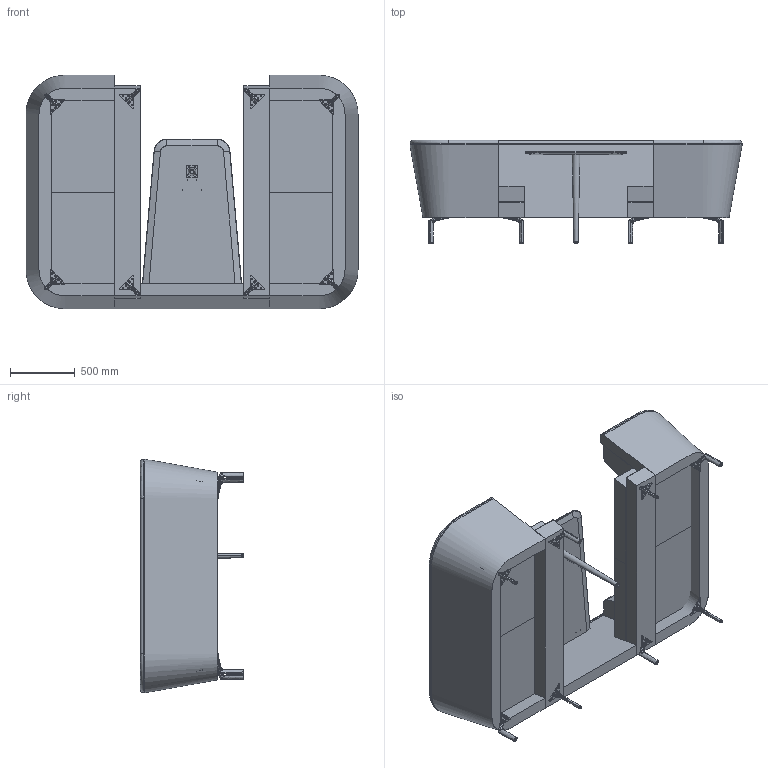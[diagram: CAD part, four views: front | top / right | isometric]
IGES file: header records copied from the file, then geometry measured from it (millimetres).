
Start section: SolidWorks IGES file using analytic representation for surfaces
Global section: file name: P:\3D CAD BLOCKS\ENTENTE\ENT2L - ENTENTE 4 SEAT BOOTH\ENT2L - ENTENTE 4 SEAT BOOTH.IGS; native system: SolidWorks 2012; preprocessor: SolidWorks 2012; author: adam; date: 140710.122809; units: millimetre
Bounding box: 2560 x 797.5 x 1800 mm (x, y, z)
Surface area: 23753945.8 mm2 (no closed solid volume)
Topology: 0 solids, 0 shells, 1275 faces, 16670 edges, 16662 vertices
Faces by surface type: bspline 715, revolution 560
